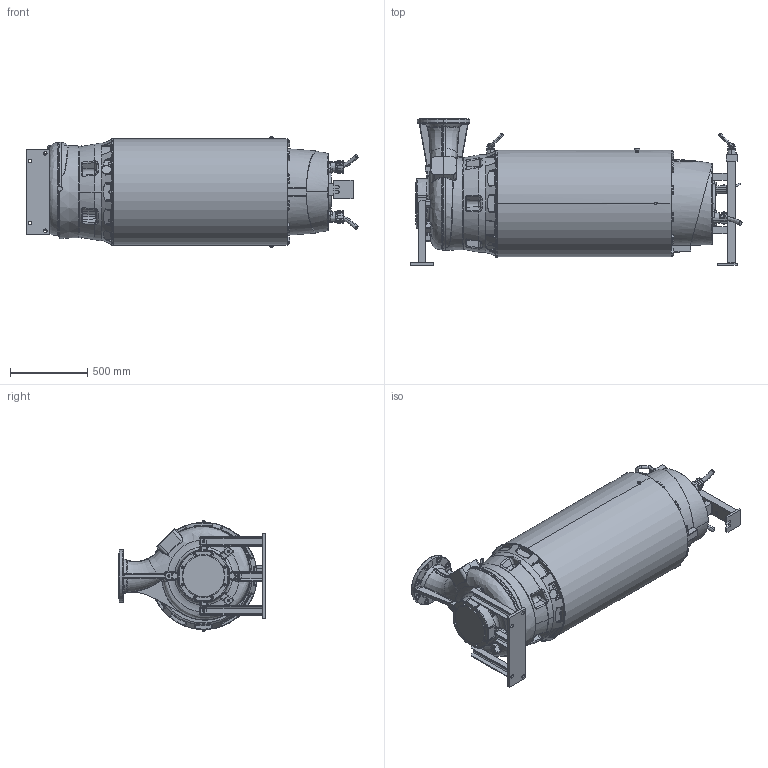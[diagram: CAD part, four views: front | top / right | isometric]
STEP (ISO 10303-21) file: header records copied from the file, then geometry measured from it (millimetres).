
FILE_DESCRIPTION (( 'STEP AP214' ), '1' );
FILE_NAME ('PE6_XFP200M-CH2_DRY HA_B_NG2.STEP', '2017-03-16T12:19:15', ( '' ), ( '' ), 'SwSTEP 2.0', 'SolidWorks 2017', '' );
FILE_SCHEMA (( 'AUTOMOTIVE_DESIGN' ));
Length unit declared in the file: millimetre
Products named in the file (1): PE6_XFP200M-CH2_DRY HA_B_NG2
Bounding box: 2148.08 x 950 x 712 mm (x, y, z)
Volume: 630919152.6 mm3; surface area: 6054109.3 mm2
Topology: 5 solids, 17 shells, 3175 faces, 7814 edges, 4541 vertices
Faces by surface type: plane 883, bspline 792, cylinder 635, torus 389, cone 347, sphere 129
Entity records: 195416 total; most frequent: CARTESIAN_POINT 92437, ORIENTED_EDGE 15222, DIRECTION 12980, EDGE_CURVE 7611, AXIS2_PLACEMENT_3D 5219, VERTEX_POINT 4537, EDGE_LOOP 3340, UNCERTAINTY_MEASURE_WITH_UNIT 3182
